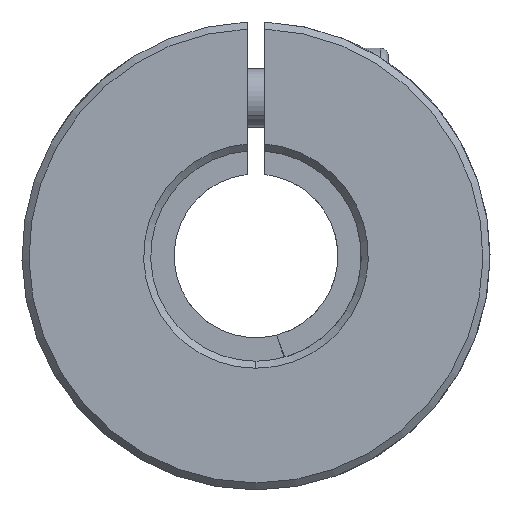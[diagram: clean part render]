
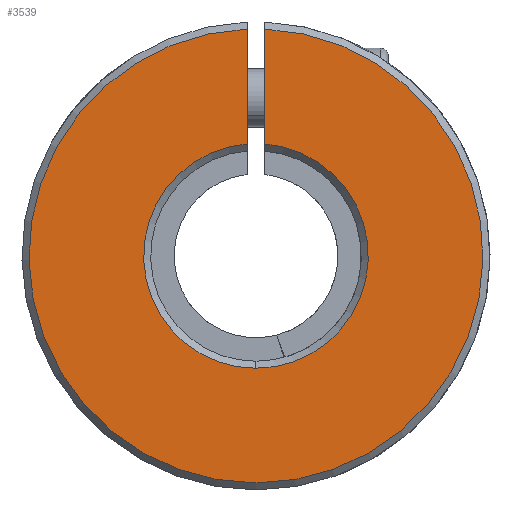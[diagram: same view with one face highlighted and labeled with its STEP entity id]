
A CAD part, front view. The second image highlights one B-rep face of the part: STEP entity #3539.
In plain terms, the highlighted planar face has unit normal (0, -1, 0).
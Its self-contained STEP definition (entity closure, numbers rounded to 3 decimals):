
#87 = EDGE_CURVE ( 'NONE', #5772, #1868, #617, .T. ) ;
#136 = AXIS2_PLACEMENT_3D ( 'NONE', #1111, #3839, #2071 ) ;
#230 = DIRECTION ( 'NONE',  ( 0., 0., 1. ) ) ;
#291 = CARTESIAN_POINT ( 'NONE',  ( -0.75, -25., 9.571 ) ) ;
#327 = EDGE_CURVE ( 'NONE', #1868, #2094, #4330, .T. ) ;
#409 = CARTESIAN_POINT ( 'NONE',  ( 0., -25., 0. ) ) ;
#482 = LINE ( 'NONE', #4017, #1571 ) ;
#553 = PLANE ( 'NONE',  #5048 ) ;
#577 = VERTEX_POINT ( 'NONE', #5643 ) ;
#617 = LINE ( 'NONE', #4275, #3017 ) ;
#906 = CIRCLE ( 'NONE', #5507, 9.6 ) ;
#971 = EDGE_CURVE ( 'NONE', #2094, #577, #482, .T. ) ;
#1001 = DIRECTION ( 'NONE',  ( 0., 1., 0. ) ) ;
#1021 = CARTESIAN_POINT ( 'NONE',  ( 0.75, -25., 19.385 ) ) ;
#1066 = CARTESIAN_POINT ( 'NONE',  ( 0., -25., 0. ) ) ;
#1111 = CARTESIAN_POINT ( 'NONE',  ( 0., -25., 0. ) ) ;
#1217 = EDGE_CURVE ( 'NONE', #577, #4481, #2779, .T. ) ;
#1385 = DIRECTION ( 'NONE',  ( 0., -1., 0. ) ) ;
#1511 = AXIS2_PLACEMENT_3D ( 'NONE', #409, #1385, #2300 ) ;
#1568 = CARTESIAN_POINT ( 'NONE',  ( 0., -25., -9.6 ) ) ;
#1571 = VECTOR ( 'NONE', #2257, 1000. ) ;
#1764 = DIRECTION ( 'NONE',  ( 0., 0., 1. ) ) ;
#1797 = FACE_OUTER_BOUND ( 'NONE', #2191, .T. ) ;
#1868 = VERTEX_POINT ( 'NONE', #2470 ) ;
#1896 = EDGE_CURVE ( 'NONE', #4481, #5772, #906, .T. ) ;
#2071 = DIRECTION ( 'NONE',  ( 0., 0., 1. ) ) ;
#2094 = VERTEX_POINT ( 'NONE', #1021 ) ;
#2191 = EDGE_LOOP ( 'NONE', ( #5353, #4030, #5745, #2717, #3086 ) ) ;
#2257 = DIRECTION ( 'NONE',  ( 0., 0., -1. ) ) ;
#2300 = DIRECTION ( 'NONE',  ( 0., 0., 1. ) ) ;
#2470 = CARTESIAN_POINT ( 'NONE',  ( -0.75, -25., 19.385 ) ) ;
#2717 = ORIENTED_EDGE ( 'NONE', *, *, #87, .T. ) ;
#2779 = CIRCLE ( 'NONE', #136, 9.6 ) ;
#2854 = DIRECTION ( 'NONE',  ( 0., 0., 1. ) ) ;
#3017 = VECTOR ( 'NONE', #230, 1000. ) ;
#3086 = ORIENTED_EDGE ( 'NONE', *, *, #327, .T. ) ;
#3539 = ADVANCED_FACE ( 'NONE', ( #1797 ), #553, .F. ) ;
#3839 = DIRECTION ( 'NONE',  ( 0., 1., 0. ) ) ;
#4017 = CARTESIAN_POINT ( 'NONE',  ( 0.75, -25., -6. ) ) ;
#4030 = ORIENTED_EDGE ( 'NONE', *, *, #1217, .T. ) ;
#4031 = DIRECTION ( 'NONE',  ( 0., 1., 0. ) ) ;
#4147 = CARTESIAN_POINT ( 'NONE',  ( 0., -25., 0. ) ) ;
#4275 = CARTESIAN_POINT ( 'NONE',  ( -0.75, -25., -6. ) ) ;
#4330 = CIRCLE ( 'NONE', #1511, 19.4 ) ;
#4481 = VERTEX_POINT ( 'NONE', #1568 ) ;
#5048 = AXIS2_PLACEMENT_3D ( 'NONE', #4147, #4031, #1764 ) ;
#5353 = ORIENTED_EDGE ( 'NONE', *, *, #971, .T. ) ;
#5507 = AXIS2_PLACEMENT_3D ( 'NONE', #1066, #1001, #2854 ) ;
#5643 = CARTESIAN_POINT ( 'NONE',  ( 0.75, -25., 9.571 ) ) ;
#5745 = ORIENTED_EDGE ( 'NONE', *, *, #1896, .T. ) ;
#5772 = VERTEX_POINT ( 'NONE', #291 ) ;
